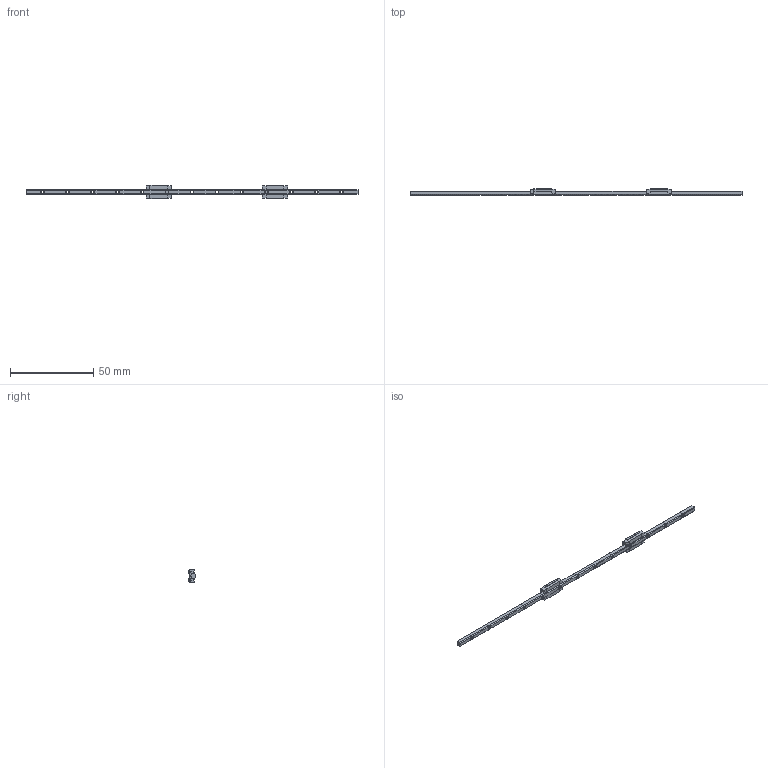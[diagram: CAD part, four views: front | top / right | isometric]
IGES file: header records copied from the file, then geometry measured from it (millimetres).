
Start section: SolidWorks IGES file using analytic representation for surfaces
Global section: file name: H:\直得科技CAD圖檔\3D目錄檔\MR-M Series\3ML.IGS; native system: SolidWorks 2005 by SolidWorks Corporation; preprocessor: SolidWorks 2005 by SolidWorks Corporation; author: cpc; date: 050331.121231; units: millimetre
Bounding box: 200 x 4 x 8 mm (x, y, z)
Surface area: 2833.9 mm2 (no closed solid volume)
Topology: 0 solids, 0 shells, 496 faces, 6128 edges, 6120 vertices
Faces by surface type: bspline 352, revolution 144
